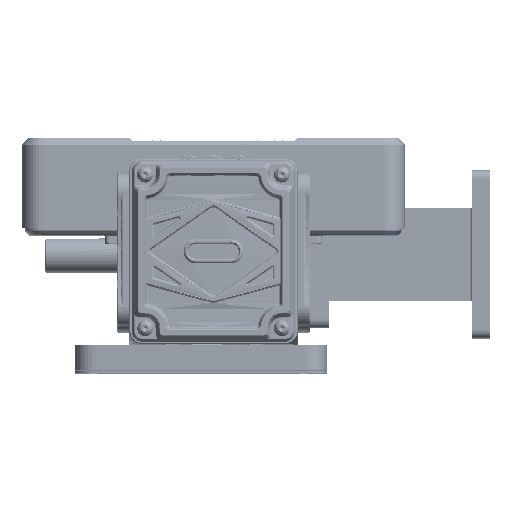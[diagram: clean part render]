
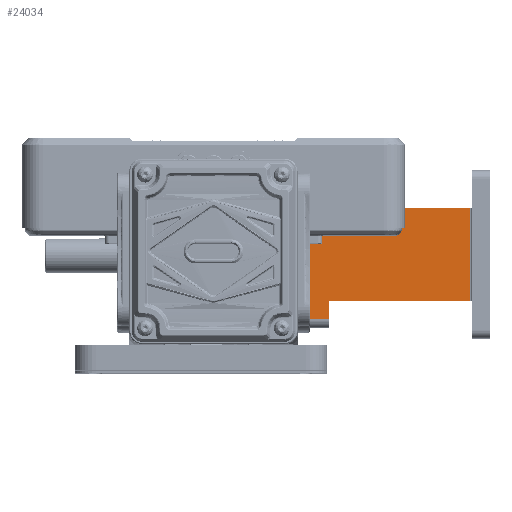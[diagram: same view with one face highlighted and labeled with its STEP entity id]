
A CAD part, top view. The second image highlights one B-rep face of the part: STEP entity #24034.
In plain terms, the highlighted planar face has unit normal (0, 0, 1) as drawn and (-1, 0, 0) by its records, which use the part's own axes.
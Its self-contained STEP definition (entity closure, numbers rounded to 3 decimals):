
#6571 = EDGE_CURVE ( 'NONE', #154521, #186621, #52159, .T. ) ;
#6822 = EDGE_CURVE ( 'NONE', #32659, #285978, #124844, .T. ) ;
#11826 = DIRECTION ( 'NONE',  ( 0., 0., -1. ) ) ;
#18882 = LINE ( 'NONE', #245106, #317645 ) ;
#21002 = VECTOR ( 'NONE', #136023, 1000. ) ;
#22561 = ORIENTED_EDGE ( 'NONE', *, *, #101130, .T. ) ;
#24034 = ADVANCED_FACE ( 'NONE', ( #310001 ), #90874, .F. ) ;
#27438 = AXIS2_PLACEMENT_3D ( 'NONE', #63531, #172913, #196722 ) ;
#32659 = VERTEX_POINT ( 'NONE', #38082 ) ;
#38082 = CARTESIAN_POINT ( 'NONE',  ( -108.272, -77., 1.047 ) ) ;
#47406 = EDGE_CURVE ( 'NONE', #32659, #148603, #351065, .T. ) ;
#52159 = LINE ( 'NONE', #331373, #182769 ) ;
#63531 = CARTESIAN_POINT ( 'NONE',  ( -108.272, -1., -55.953 ) ) ;
#72114 = VECTOR ( 'NONE', #11826, 1000. ) ;
#73559 = CARTESIAN_POINT ( 'NONE',  ( -108.272, -1., 1.047 ) ) ;
#90874 = PLANE ( 'NONE',  #27438 ) ;
#95758 = CARTESIAN_POINT ( 'NONE',  ( -108.272, -1., -7.953 ) ) ;
#101130 = EDGE_CURVE ( 'NONE', #239249, #186621, #249724, .T. ) ;
#101956 = VECTOR ( 'NONE', #239697, 1000. ) ;
#107011 = CARTESIAN_POINT ( 'NONE',  ( -108.272, -68., 5.047 ) ) ;
#116365 = ORIENTED_EDGE ( 'NONE', *, *, #47406, .T. ) ;
#117379 = CARTESIAN_POINT ( 'NONE',  ( -108.272, -68., -60.953 ) ) ;
#117403 = CARTESIAN_POINT ( 'NONE',  ( -108.272, -68., 1.047 ) ) ;
#119455 = ORIENTED_EDGE ( 'NONE', *, *, #263239, .T. ) ;
#124844 = LINE ( 'NONE', #294552, #72114 ) ;
#136023 = DIRECTION ( 'NONE',  ( 0., 1., 0. ) ) ;
#148603 = VERTEX_POINT ( 'NONE', #117403 ) ;
#154521 = VERTEX_POINT ( 'NONE', #261095 ) ;
#155007 = ORIENTED_EDGE ( 'NONE', *, *, #190163, .T. ) ;
#157794 = EDGE_LOOP ( 'NONE', ( #119455, #155007, #306417, #116365, #257466, #22561, #262105, #226252 ) ) ;
#163348 = LINE ( 'NONE', #196146, #21002 ) ;
#166041 = CARTESIAN_POINT ( 'NONE',  ( -108.272, -77., -60.953 ) ) ;
#170123 = LINE ( 'NONE', #330974, #318535 ) ;
#172913 = DIRECTION ( 'NONE',  ( 1., 0., 0. ) ) ;
#182769 = VECTOR ( 'NONE', #252849, 1000. ) ;
#186621 = VERTEX_POINT ( 'NONE', #304007 ) ;
#189745 = EDGE_CURVE ( 'NONE', #310615, #154521, #163348, .T. ) ;
#190163 = EDGE_CURVE ( 'NONE', #264743, #285978, #170123, .T. ) ;
#195738 = DIRECTION ( 'NONE',  ( 0., -1., 0. ) ) ;
#196146 = CARTESIAN_POINT ( 'NONE',  ( -108.272, -68., -51.953 ) ) ;
#196722 = DIRECTION ( 'NONE',  ( 0., 0., -1. ) ) ;
#208878 = EDGE_CURVE ( 'NONE', #148603, #239249, #18882, .T. ) ;
#218295 = DIRECTION ( 'NONE',  ( 0., 0., -1. ) ) ;
#226252 = ORIENTED_EDGE ( 'NONE', *, *, #189745, .F. ) ;
#239249 = VERTEX_POINT ( 'NONE', #319593 ) ;
#239697 = DIRECTION ( 'NONE',  ( 0., 1., 0. ) ) ;
#245106 = CARTESIAN_POINT ( 'NONE',  ( -108.272, -68., 5.047 ) ) ;
#249724 = LINE ( 'NONE', #95758, #257967 ) ;
#252849 = DIRECTION ( 'NONE',  ( 0., 0., 1. ) ) ;
#255162 = DIRECTION ( 'NONE',  ( 0., 1., 0. ) ) ;
#257466 = ORIENTED_EDGE ( 'NONE', *, *, #208878, .T. ) ;
#257967 = VECTOR ( 'NONE', #255162, 1000. ) ;
#261095 = CARTESIAN_POINT ( 'NONE',  ( -108.272, -1., -51.953 ) ) ;
#262105 = ORIENTED_EDGE ( 'NONE', *, *, #6571, .F. ) ;
#263239 = EDGE_CURVE ( 'NONE', #310615, #264743, #274935, .T. ) ;
#264743 = VERTEX_POINT ( 'NONE', #117379 ) ;
#272467 = DIRECTION ( 'NONE',  ( 0., 0., -1. ) ) ;
#274935 = LINE ( 'NONE', #107011, #347937 ) ;
#285978 = VERTEX_POINT ( 'NONE', #166041 ) ;
#294552 = CARTESIAN_POINT ( 'NONE',  ( -108.272, -77., 5.047 ) ) ;
#304007 = CARTESIAN_POINT ( 'NONE',  ( -108.272, -1., -7.953 ) ) ;
#306417 = ORIENTED_EDGE ( 'NONE', *, *, #6822, .F. ) ;
#310001 = FACE_OUTER_BOUND ( 'NONE', #157794, .T. ) ;
#310615 = VERTEX_POINT ( 'NONE', #333034 ) ;
#317645 = VECTOR ( 'NONE', #272467, 1000. ) ;
#318535 = VECTOR ( 'NONE', #195738, 1000. ) ;
#319593 = CARTESIAN_POINT ( 'NONE',  ( -108.272, -68., -7.953 ) ) ;
#330974 = CARTESIAN_POINT ( 'NONE',  ( -108.272, -1., -60.953 ) ) ;
#331373 = CARTESIAN_POINT ( 'NONE',  ( -108.272, -1., -55.953 ) ) ;
#333034 = CARTESIAN_POINT ( 'NONE',  ( -108.272, -68., -51.953 ) ) ;
#347937 = VECTOR ( 'NONE', #218295, 1000. ) ;
#351065 = LINE ( 'NONE', #73559, #101956 ) ;
